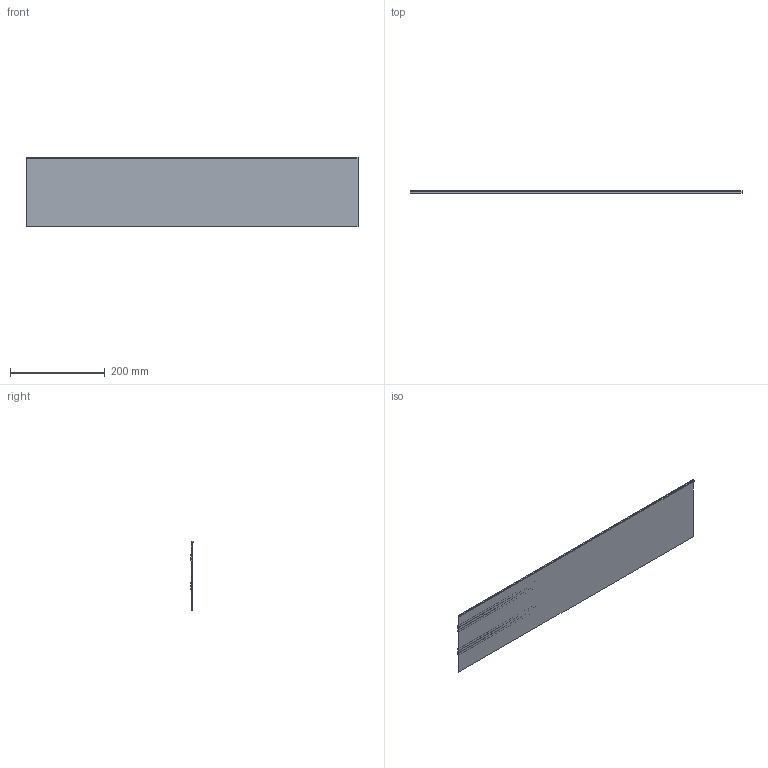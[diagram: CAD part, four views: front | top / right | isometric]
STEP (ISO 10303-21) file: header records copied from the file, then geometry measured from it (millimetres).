
FILE_DESCRIPTION (( 'STEP AP214' ), '1' );
FILE_NAME ('53372.STEP', '2022-08-03T08:06:04', ( 'Windows User' ), ( 'P R C' ), 'SwSTEP 2.0', 'SolidWorks 2019', '' );
FILE_SCHEMA (( 'AUTOMOTIVE_DESIGN' ));
Length unit declared in the file: millimetre
Products named in the file (1): 53372
Bounding box: 700 x 4.3 x 146.36 mm (x, y, z)
Volume: 194053.5 mm3; surface area: 210915.1 mm2
Topology: 1 solids, 1 shells, 58 faces, 168 edges, 112 vertices
Faces by surface type: plane 32, cylinder 26
Entity records: 1958 total; most frequent: CARTESIAN_POINT 339, DIRECTION 338, ORIENTED_EDGE 336, EDGE_CURVE 168, VECTOR 116, LINE 116, VERTEX_POINT 112, AXIS2_PLACEMENT_3D 111
